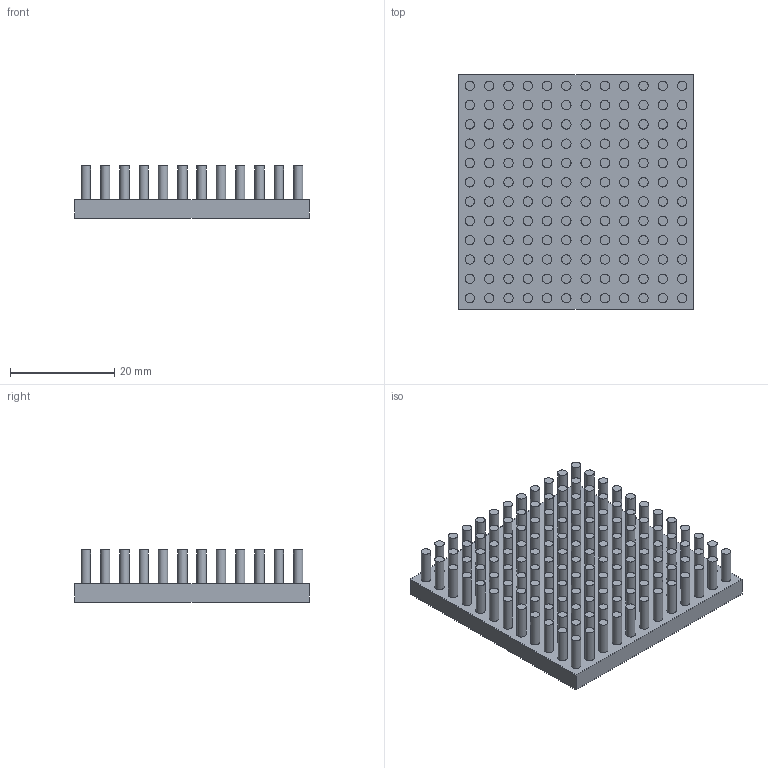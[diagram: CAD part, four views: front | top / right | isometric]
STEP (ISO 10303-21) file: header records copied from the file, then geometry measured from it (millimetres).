
FILE_DESCRIPTION(/* description */ (''),/* implementation_level */ '2;1');
FILE_NAME(/* name */ 'PB4545-B3.5-H10-P144.stp',/* time_stamp */ '2013-12-30T13:57:35+08:00',/* author */ (''),/* organization */ (''),/* preprocessor_version */ 'ST-DEVELOPER v14',/* originating_system */ 'SIEMENS PLM Software NX 8.0',/* authorisation */ '');
FILE_SCHEMA (('CONFIG_CONTROL_DESIGN'));
Length unit declared in the file: millimetre
Products named in the file (1): PB4545-P144
Bounding box: 45 x 45 x 10 mm (x, y, z)
Volume: 9469.3 mm3; surface area: 9973 mm2
Topology: 1 solids, 1 shells, 294 faces, 444 edges, 296 vertices
Faces by surface type: plane 150, cylinder 144
Full cylindrical faces by diameter (mm): 1.8 x144
Entity records: 6000 total; most frequent: DIRECTION 1178, CARTESIAN_POINT 891, ORIENTED_EDGE 600, AXIS2_PLACEMENT_3D 583, EDGE_LOOP 582, FACE_BOUND 433, EDGE_CURVE 300, VERTEX_POINT 296
